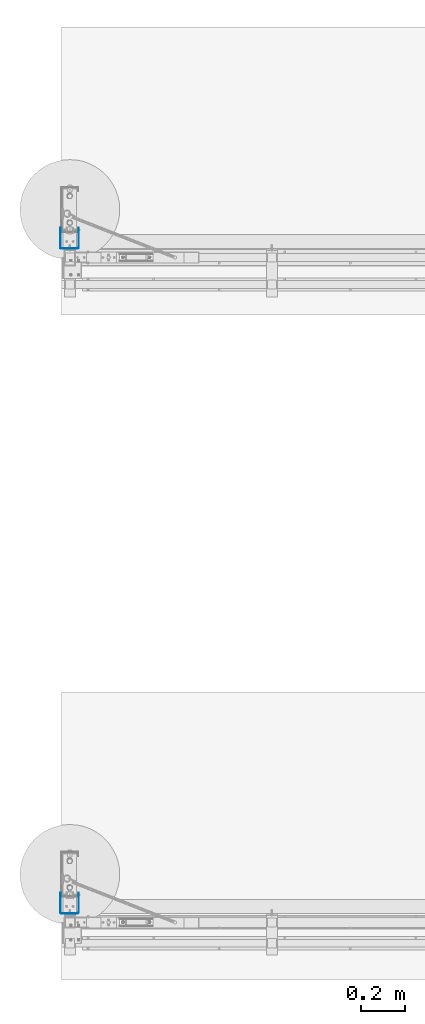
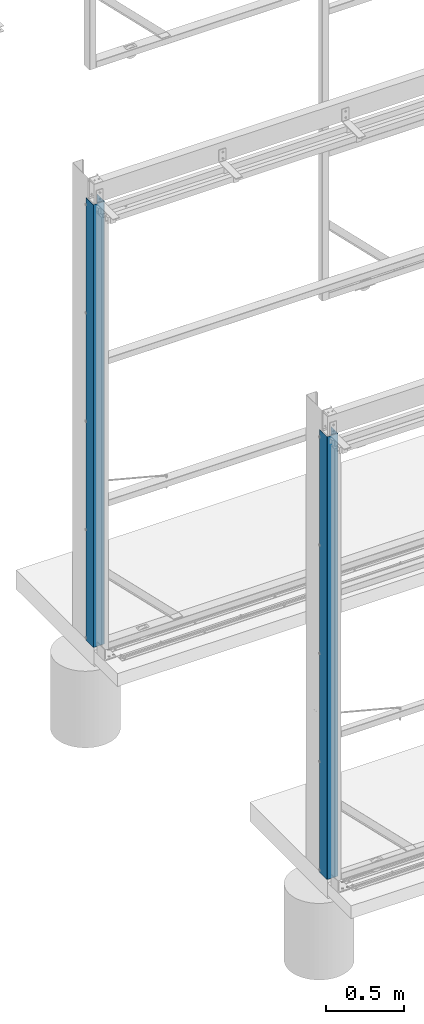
# One storey, part 77 of 91: 2 beams, 2 elements without a shape of their own.
"""IFC2X3 building model written with IfcOpenShell, lengths in millimetres."""

from ifc_helpers import new_model, si_unit, frame, origin_with_axes, place, context, subcontext, project, spatial, faceted_brep, material, type_object, element, aggregate, save


model = new_model("IFC2X3")

# Units and contexts
model_context = context("Model", 3, precision=1e-05, world=origin_with_axes())
body_context = subcontext(model_context, "Body", "Model", "MODEL_VIEW")
ifc_project = project(units=[si_unit("LENGTHUNIT", "METRE", prefix="MILLI"), si_unit("AREAUNIT", "SQUARE_METRE"), si_unit("VOLUMEUNIT", "CUBIC_METRE"), si_unit("MASSUNIT", "GRAM", prefix="KILO"), si_unit("TIMEUNIT", "SECOND"), si_unit("PLANEANGLEUNIT", "RADIAN"), si_unit("SOLIDANGLEUNIT", "STERADIAN"), si_unit("THERMODYNAMICTEMPERATUREUNIT", "DEGREE_CELSIUS"), si_unit("LUMINOUSINTENSITYUNIT", "LUMEN")], contexts=[model_context])

# Site, building, storey
site_placement = place(None, origin_with_axes())
site = spatial("IfcSite", under=ifc_project, at=site_placement, Name="Undefined", CompositionType="ELEMENT")
building_placement = place(site_placement, origin_with_axes())
building = spatial("IfcBuilding", under=site, at=building_placement, Name="Undefined", CompositionType="ELEMENT")
storey_placement = place(building_placement, origin_with_axes())
storey = spatial("IfcBuildingStorey", under=building, at=storey_placement, Name="Undefined", CompositionType="ELEMENT", Elevation=0.0)

# Assembly, beam
assembly_1_placement = place(storey_placement, origin_with_axes())
assembly_1 = element("IfcElementAssembly", 1, at=assembly_1_placement, inside=storey, Name="FOLDED CHANNEL", AssemblyPlace="NOTDEFINED", PredefinedType="RIGID_FRAME")
ifc_material = material(Name="STEEL/250")
beam_type = type_object("IfcBeamType", Name="PLT1*263.6", PredefinedType="NOTDEFINED")
beam_1_placement = place(assembly_1_placement, frame((-116756.34, 87846.15, 1703.0), z_axis=(0.0, 0.0, 1.0), x_axis=(0.0, -1.0, 0.0)))
beam_1 = element("IfcBeam", 2, at=beam_1_placement, type_object=beam_type, material=ifc_material, Name="FOLDED CHANNEL", ObjectType="PLT1*263.6", context=body_context, shape_type="Brep", body=[
    faceted_brep([(0.0, 0.5, -1735.0), (0.0, 0.5, 1735.0), (89.0, 0.5, 1735.0), (89.0, 0.500000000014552, -1735.0), (0.0, -0.5, 1735.0), (0.0, -0.5, -1735.0), (89.0, -0.5, -1735.0), (89.0, -0.5, 1735.0), (91.5000000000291, -0.16987298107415, 1735.0), (91.5000000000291, -0.16987298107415, -1735.0), (91.0000000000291, -1.03589838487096, -1735.0), (91.0000000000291, -1.03589838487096, 1735.0), (92.4641016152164, -2.50000000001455, -1735.0), (92.4641016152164, -2.50000000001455, 1735.0), (93.3301270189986, -2.0, 1735.0), (93.3301270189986, -2.0, -1735.0), (93.0000000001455, -4.50000000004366, -1735.0), (93.0000000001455, -4.50000000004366, 1735.0), (94.0000000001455, -4.50000000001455, 1735.0), (94.0, -4.5, -1735.0), (94.0, -77.5, 1735.0), (94.0, -77.5000000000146, -1735.0), (93.0, -77.5, -1735.0), (93.0, -77.5, 1735.0), (93.3301270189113, -80.0000000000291, 1735.0), (93.3301270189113, -80.0000000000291, -1735.0), (92.4641016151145, -79.5000000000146, -1735.0), (92.4641016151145, -79.5000000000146, 1735.0), (90.9999999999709, -80.9641016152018, -1735.0), (90.9999999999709, -80.9641016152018, 1735.0), (91.5, -81.8301270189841, 1735.0), (91.5, -81.8301270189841, -1735.0), (88.9999999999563, -81.5000000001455, -1735.0), (88.9999999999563, -81.5000000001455, 1735.0), (89.0, -82.5000000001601, 1735.0), (89.0, -82.5, -1735.0), (0.0, -82.5, 1735.0), (0.0, -82.5, -1735.0), (0.0, -81.5, 1735.0), (0.0, -81.5, -1735.0)], [[[0, 1, 2, 3]], [[4, 5, 6, 7]], [[5, 4, 1, 0]], [[3, 2, 8, 9]], [[7, 6, 10, 11]], [[10, 12, 13, 11]], [[8, 14, 15, 9]], [[12, 16, 17, 13]], [[14, 18, 19, 15]], [[19, 18, 20, 21]], [[17, 16, 22, 23]], [[21, 20, 24, 25]], [[23, 22, 26, 27]], [[26, 28, 29, 27]], [[24, 30, 31, 25]], [[28, 32, 33, 29]], [[30, 34, 35, 31]], [[35, 34, 36, 37]], [[34, 30, 24, 20, 18, 14, 8, 2, 1, 4, 7, 11, 13, 17, 23, 27, 29, 33, 38, 36]], [[33, 32, 39, 38]], [[32, 28, 26, 22, 16, 12, 10, 6, 5, 0, 3, 9, 15, 19, 21, 25, 31, 35, 37, 39]], [[38, 39, 37, 36]]]),
])
aggregate(assembly_1, [beam_1])

assembly_2_placement = place(storey_placement, origin_with_axes())
assembly_2 = element("IfcElementAssembly", 3, at=assembly_2_placement, inside=storey, Name="FOLDED CHANNEL", AssemblyPlace="NOTDEFINED", PredefinedType="RIGID_FRAME")
beam_2_placement = place(assembly_2_placement, frame((-116756.34, 84846.15, 1703.0), z_axis=(0.0, 0.0, 1.0), x_axis=(0.0, -1.0, 0.0)))
beam_2 = element("IfcBeam", 4, at=beam_2_placement, type_object=beam_type, material=ifc_material, Name="FOLDED CHANNEL", ObjectType="PLT1*263.6", context=body_context, shape_type="Brep", body=[
    faceted_brep([(0.0, 0.5, -1735.0), (0.0, 0.5, 1735.0), (89.0, 0.5, 1735.0), (89.0, 0.500000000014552, -1735.0), (0.0, -0.5, 1735.0), (0.0, -0.5, -1735.0), (89.0, -0.5, -1735.0), (89.0, -0.5, 1735.0), (91.5000000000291, -0.16987298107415, 1735.0), (91.5000000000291, -0.16987298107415, -1735.0), (91.0000000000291, -1.03589838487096, -1735.0), (91.0000000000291, -1.03589838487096, 1735.0), (92.4641016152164, -2.50000000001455, -1735.0), (92.4641016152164, -2.50000000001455, 1735.0), (93.3301270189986, -2.0, 1735.0), (93.3301270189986, -2.0, -1735.0), (93.0000000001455, -4.50000000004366, -1735.0), (93.0000000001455, -4.50000000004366, 1735.0), (94.0000000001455, -4.50000000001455, 1735.0), (94.0, -4.5, -1735.0), (94.0, -77.5, 1735.0), (94.0, -77.5000000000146, -1735.0), (93.0, -77.5, -1735.0), (93.0, -77.5, 1735.0), (93.3301270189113, -80.0000000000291, 1735.0), (93.3301270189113, -80.0000000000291, -1735.0), (92.4641016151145, -79.5000000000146, -1735.0), (92.4641016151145, -79.5000000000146, 1735.0), (90.9999999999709, -80.9641016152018, -1735.0), (90.9999999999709, -80.9641016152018, 1735.0), (91.5, -81.8301270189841, 1735.0), (91.5, -81.8301270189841, -1735.0), (88.9999999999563, -81.5000000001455, -1735.0), (88.9999999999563, -81.5000000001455, 1735.0), (89.0, -82.5000000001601, 1735.0), (89.0, -82.5, -1735.0), (0.0, -82.5, 1735.0), (0.0, -82.5, -1735.0), (0.0, -81.5, 1735.0), (0.0, -81.5, -1735.0)], [[[0, 1, 2, 3]], [[4, 5, 6, 7]], [[5, 4, 1, 0]], [[3, 2, 8, 9]], [[7, 6, 10, 11]], [[10, 12, 13, 11]], [[8, 14, 15, 9]], [[12, 16, 17, 13]], [[14, 18, 19, 15]], [[19, 18, 20, 21]], [[17, 16, 22, 23]], [[21, 20, 24, 25]], [[23, 22, 26, 27]], [[26, 28, 29, 27]], [[24, 30, 31, 25]], [[28, 32, 33, 29]], [[30, 34, 35, 31]], [[35, 34, 36, 37]], [[34, 30, 24, 20, 18, 14, 8, 2, 1, 4, 7, 11, 13, 17, 23, 27, 29, 33, 38, 36]], [[33, 32, 39, 38]], [[32, 28, 26, 22, 16, 12, 10, 6, 5, 0, 3, 9, 15, 19, 21, 25, 31, 35, 37, 39]], [[38, 39, 37, 36]]]),
])
aggregate(assembly_2, [beam_2])

save(model, "model.ifc")
